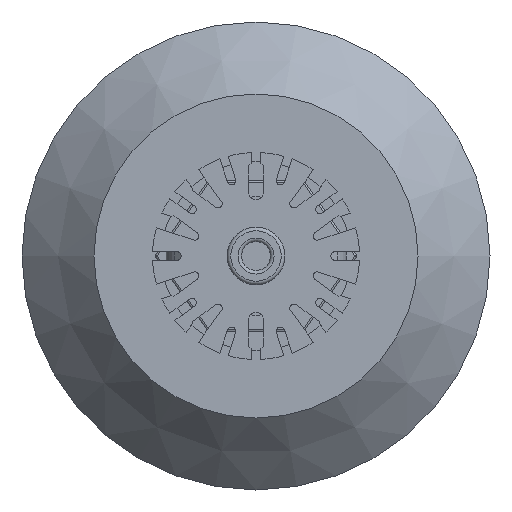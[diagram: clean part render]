
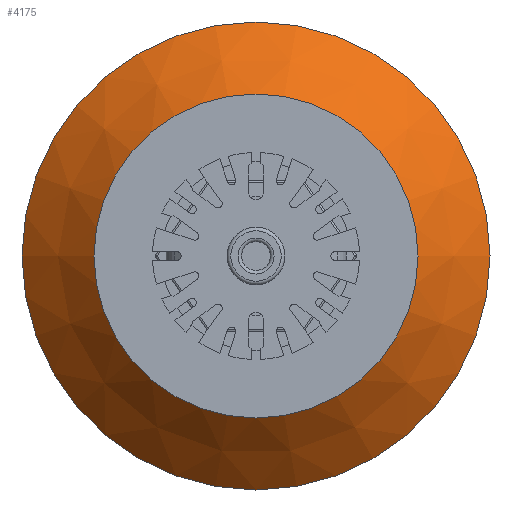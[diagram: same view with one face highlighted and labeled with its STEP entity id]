
A CAD part, front view. The second image highlights one B-rep face of the part: STEP entity #4175.
In plain terms, the highlighted conical face has half-angle 45 degrees and reference radius 34.925 mm.
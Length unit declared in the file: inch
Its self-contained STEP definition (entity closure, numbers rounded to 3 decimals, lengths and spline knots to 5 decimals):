
#171=LINE('',#6226,#515);
#515=VECTOR('',#4955,1.375);
#859=CONICAL_SURFACE('',#4473,1.375,0.785);
#881=FACE_OUTER_BOUND('',#1111,.T.);
#1111=EDGE_LOOP('',(#2607,#2608,#2609,#2610,#2611,#2612));
#1352=CIRCLE('',#4469,1.625);
#1353=CIRCLE('',#4470,1.625);
#1356=CIRCLE('',#4474,1.125);
#1357=CIRCLE('',#4475,1.125);
#1586=VERTEX_POINT('',#6213);
#1587=VERTEX_POINT('',#6214);
#1590=VERTEX_POINT('',#6222);
#1591=VERTEX_POINT('',#6223);
#1986=EDGE_CURVE('',#1586,#1587,#1352,.T.);
#1987=EDGE_CURVE('',#1587,#1586,#1353,.T.);
#1990=EDGE_CURVE('',#1590,#1591,#1356,.T.);
#1991=EDGE_CURVE('',#1591,#1590,#1357,.T.);
#1992=EDGE_CURVE('',#1591,#1587,#171,.T.);
#2607=ORIENTED_EDGE('',*,*,#1990,.F.);
#2608=ORIENTED_EDGE('',*,*,#1991,.F.);
#2609=ORIENTED_EDGE('',*,*,#1992,.T.);
#2610=ORIENTED_EDGE('',*,*,#1987,.T.);
#2611=ORIENTED_EDGE('',*,*,#1986,.T.);
#2612=ORIENTED_EDGE('',*,*,#1992,.F.);
#4175=ADVANCED_FACE('',(#881),#859,.T.);
#4469=AXIS2_PLACEMENT_3D('',#6215,#4941,#4942);
#4470=AXIS2_PLACEMENT_3D('',#6216,#4943,#4944);
#4473=AXIS2_PLACEMENT_3D('',#6221,#4949,#4950);
#4474=AXIS2_PLACEMENT_3D('',#6224,#4951,#4952);
#4475=AXIS2_PLACEMENT_3D('',#6225,#4953,#4954);
#4941=DIRECTION('center_axis',(0.,-1.,0.));
#4942=DIRECTION('ref_axis',(1.,0.,0.));
#4943=DIRECTION('center_axis',(0.,-1.,0.));
#4944=DIRECTION('ref_axis',(1.,0.,0.));
#4949=DIRECTION('center_axis',(0.,1.,0.));
#4950=DIRECTION('ref_axis',(-1.,0.,0.));
#4951=DIRECTION('center_axis',(0.,-1.,0.));
#4952=DIRECTION('ref_axis',(1.,0.,0.));
#4953=DIRECTION('center_axis',(0.,-1.,0.));
#4954=DIRECTION('ref_axis',(1.,0.,0.));
#4955=DIRECTION('',(0.707,0.707,0.));
#6213=CARTESIAN_POINT('',(-1.625,2.5,0.));
#6214=CARTESIAN_POINT('',(1.625,2.5,0.));
#6215=CARTESIAN_POINT('Origin',(0.,2.5,0.));
#6216=CARTESIAN_POINT('Origin',(0.,2.5,0.));
#6221=CARTESIAN_POINT('Origin',(0.,2.25,0.));
#6222=CARTESIAN_POINT('',(-1.125,2.,0.));
#6223=CARTESIAN_POINT('',(1.125,2.,0.));
#6224=CARTESIAN_POINT('Origin',(0.,2.,0.));
#6225=CARTESIAN_POINT('Origin',(0.,2.,0.));
#6226=CARTESIAN_POINT('',(1.375,2.25,0.));
